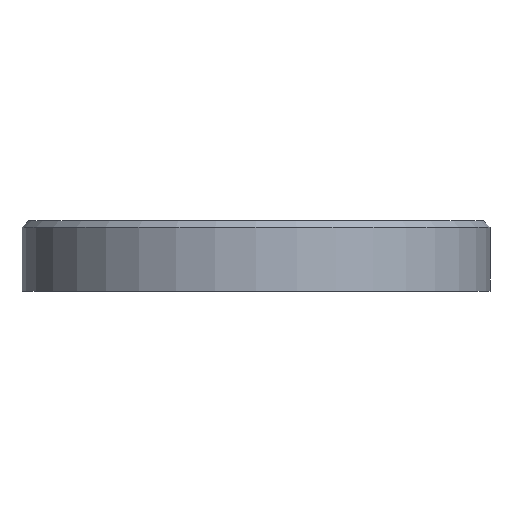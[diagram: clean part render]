
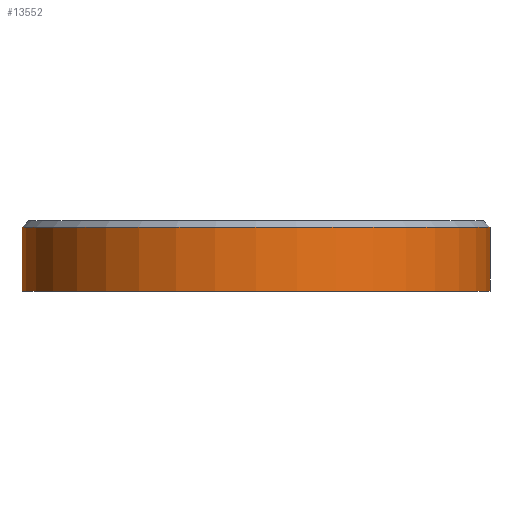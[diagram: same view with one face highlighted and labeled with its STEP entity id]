
A CAD part, front view. The second image highlights one B-rep face of the part: STEP entity #13552.
In plain terms, the highlighted cylindrical face has radius 18.51 mm (diameter 37.02 mm), a partial arc.
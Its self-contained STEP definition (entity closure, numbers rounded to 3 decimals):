
#456 = LINE ( 'NONE', #12729, #7653 ) ;
#939 = CIRCLE ( 'NONE', #3057, 18.51 ) ;
#1154 = DIRECTION ( 'NONE',  ( 0., 0., -1. ) ) ;
#1372 = ORIENTED_EDGE ( 'NONE', *, *, #6026, .T. ) ;
#1507 = CYLINDRICAL_SURFACE ( 'NONE', #6889, 18.51 ) ;
#1588 = DIRECTION ( 'NONE',  ( 0., 0., -1. ) ) ;
#1758 = DIRECTION ( 'NONE',  ( 0., 0., 1. ) ) ;
#1824 = DIRECTION ( 'NONE',  ( 1., 0., 0. ) ) ;
#1895 = CARTESIAN_POINT ( 'NONE',  ( 0., 0., -2.781 ) ) ;
#2006 = DIRECTION ( 'NONE',  ( -1., 0., 0. ) ) ;
#2363 = VERTEX_POINT ( 'NONE', #5472 ) ;
#3057 = AXIS2_PLACEMENT_3D ( 'NONE', #6177, #5106, #4947 ) ;
#4216 = ORIENTED_EDGE ( 'NONE', *, *, #11230, .T. ) ;
#4245 = CARTESIAN_POINT ( 'NONE',  ( 18.51, 0., 2.273 ) ) ;
#4875 = LINE ( 'NONE', #4956, #11436 ) ;
#4922 = VERTEX_POINT ( 'NONE', #6545 ) ;
#4947 = DIRECTION ( 'NONE',  ( 1., 0., 0. ) ) ;
#4956 = CARTESIAN_POINT ( 'NONE',  ( -18.51, 0., 2.781 ) ) ;
#5106 = DIRECTION ( 'NONE',  ( 0., 0., -1. ) ) ;
#5472 = CARTESIAN_POINT ( 'NONE',  ( 18.51, 0., -2.781 ) ) ;
#6026 = EDGE_CURVE ( 'NONE', #4922, #2363, #14509, .T. ) ;
#6177 = CARTESIAN_POINT ( 'NONE',  ( 0., 0., 2.273 ) ) ;
#6541 = VERTEX_POINT ( 'NONE', #11568 ) ;
#6545 = CARTESIAN_POINT ( 'NONE',  ( -18.51, 0., -2.781 ) ) ;
#6889 = AXIS2_PLACEMENT_3D ( 'NONE', #7829, #1588, #2006 ) ;
#7653 = VECTOR ( 'NONE', #12887, 1000. ) ;
#7829 = CARTESIAN_POINT ( 'NONE',  ( 0., 0., 2.781 ) ) ;
#9264 = ORIENTED_EDGE ( 'NONE', *, *, #13545, .F. ) ;
#10036 = AXIS2_PLACEMENT_3D ( 'NONE', #1895, #1758, #1824 ) ;
#10255 = ORIENTED_EDGE ( 'NONE', *, *, #15471, .T. ) ;
#11230 = EDGE_CURVE ( 'NONE', #6541, #4922, #4875, .T. ) ;
#11436 = VECTOR ( 'NONE', #1154, 1000. ) ;
#11568 = CARTESIAN_POINT ( 'NONE',  ( -18.51, 0., 2.273 ) ) ;
#12729 = CARTESIAN_POINT ( 'NONE',  ( 18.51, 0., 2.781 ) ) ;
#12751 = VERTEX_POINT ( 'NONE', #4245 ) ;
#12887 = DIRECTION ( 'NONE',  ( 0., 0., -1. ) ) ;
#13545 = EDGE_CURVE ( 'NONE', #12751, #2363, #456, .T. ) ;
#13552 = ADVANCED_FACE ( 'NONE', ( #15473 ), #1507, .T. ) ;
#14509 = CIRCLE ( 'NONE', #10036, 18.51 ) ;
#15471 = EDGE_CURVE ( 'NONE', #12751, #6541, #939, .T. ) ;
#15473 = FACE_OUTER_BOUND ( 'NONE', #16069, .T. ) ;
#16069 = EDGE_LOOP ( 'NONE', ( #9264, #10255, #4216, #1372 ) ) ;
